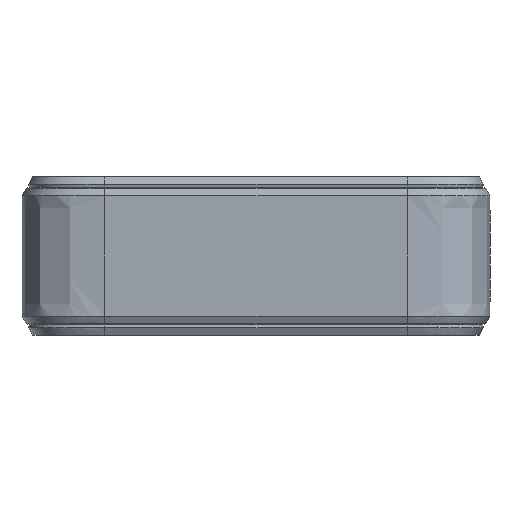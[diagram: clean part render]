
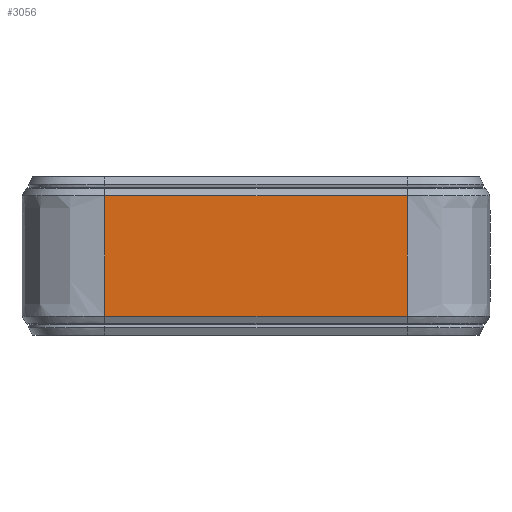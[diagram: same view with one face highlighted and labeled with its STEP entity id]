
A CAD part, left-side view. The second image highlights one B-rep face of the part: STEP entity #3056.
In plain terms, the highlighted planar face has unit normal (-1, 0, 0).
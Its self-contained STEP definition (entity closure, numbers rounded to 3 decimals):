
#135=DIRECTION('',(0.,0.,-1.));
#136=VECTOR('',#135,8.34);
#137=CARTESIAN_POINT('',(-31.,10.5,-1.33));
#138=LINE('',#137,#136);
#147=DIRECTION('',(0.,0.,1.));
#148=VECTOR('',#147,8.34);
#149=CARTESIAN_POINT('',(-31.,-10.5,
-9.67));
#150=LINE('',#149,#148);
#539=DIRECTION('',(0.,-1.,0.));
#540=VECTOR('',#539,21.);
#541=CARTESIAN_POINT('',(-31.,10.5,-9.67));
#542=LINE('',#541,#540);
#1008=DIRECTION('',(0.,1.,0.));
#1009=VECTOR('',#1008,21.);
#1010=CARTESIAN_POINT('',(-31.,-10.5,-1.33));
#1011=LINE('',#1010,#1009);
#2348=CARTESIAN_POINT('',(-31.,10.5,
-1.33));
#2349=CARTESIAN_POINT('',(-31.,10.5,-9.67));
#2350=VERTEX_POINT('',#2348);
#2351=VERTEX_POINT('',#2349);
#2352=CARTESIAN_POINT('',(-31.,-10.5,
-9.67));
#2353=CARTESIAN_POINT('',(-31.,-10.5,-1.33));
#2354=VERTEX_POINT('',#2352);
#2355=VERTEX_POINT('',#2353);
#3042=CARTESIAN_POINT('',(-31.,16.25,-81.002));
#3043=DIRECTION('',(-1.,0.,0.));
#3044=DIRECTION('',(0.,-1.,0.));
#3045=AXIS2_PLACEMENT_3D('',#3042,#3043,#3044);
#3046=PLANE('',#3045);
#3048=ORIENTED_EDGE('',*,*,#3047,.F.);
#3050=ORIENTED_EDGE('',*,*,#3049,.F.);
#3051=ORIENTED_EDGE('',*,*,#3032,.F.);
#3053=ORIENTED_EDGE('',*,*,#3052,.F.);
#3054=EDGE_LOOP('',(#3048,#3050,#3051,#3053));
#3055=FACE_OUTER_BOUND('',#3054,.F.);
#3056=ADVANCED_FACE('',(#3055),#3046,.T.);
#3032=EDGE_CURVE('',#2350,#2351,#138,.T.);
#3047=EDGE_CURVE('',#2354,#2355,#150,.T.);
#3049=EDGE_CURVE('',#2351,#2354,#542,.T.);
#3052=EDGE_CURVE('',#2355,#2350,#1011,.T.);
